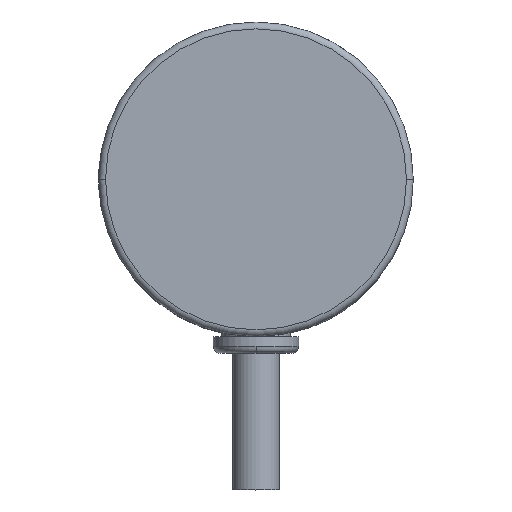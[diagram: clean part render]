
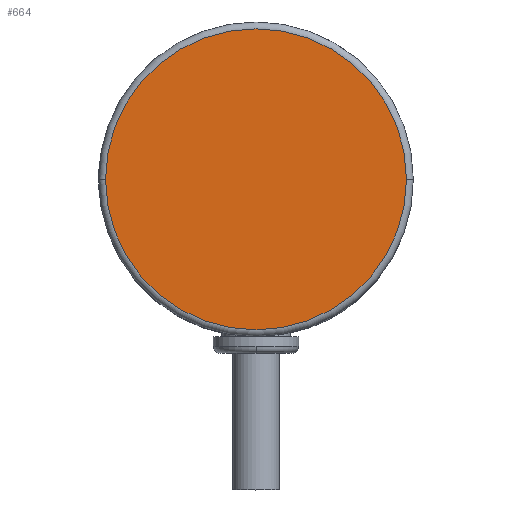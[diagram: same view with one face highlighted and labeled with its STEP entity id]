
A CAD part, top view. The second image highlights one B-rep face of the part: STEP entity #664.
In plain terms, the highlighted planar face has unit normal (0, 0, 1).
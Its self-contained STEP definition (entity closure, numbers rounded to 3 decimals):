
#664=ADVANCED_FACE('',(#964),#965,.T.);
#964=FACE_OUTER_BOUND('',#1324,.T.);
#965=PLANE('',#1325);
#1324=EDGE_LOOP('',(#2238,#2239));
#1325=AXIS2_PLACEMENT_3D('',#2240,#2241,#2242);
#2238=ORIENTED_EDGE('',*,*,#2815,.T.);
#2239=ORIENTED_EDGE('',*,*,#2847,.T.);
#2240=CARTESIAN_POINT('',(0.,0.0,60.0));
#2241=DIRECTION('',(0.0,0.0,1.0));
#2242=DIRECTION('',(1.0,0.0,0.0));
#2815=EDGE_CURVE('',#3297,#3300,#3302,.T.);
#2847=EDGE_CURVE('',#3300,#3297,#3348,.T.);
#3297=VERTEX_POINT('',#4247);
#3300=VERTEX_POINT('',#4250);
#3302=CIRCLE('',#4252,22.0);
#3348=CIRCLE('',#4528,22.0);
#4247=CARTESIAN_POINT('',(22.0,0.0,60.0));
#4250=CARTESIAN_POINT('',(-22.0,0.,60.0));
#4252=AXIS2_PLACEMENT_3D('',#5148,#5149,#5150);
#4528=AXIS2_PLACEMENT_3D('',#5183,#5184,#5185);
#5148=CARTESIAN_POINT('',(0.,0.0,60.0));
#5149=DIRECTION('',(0.0,0.0,1.0));
#5150=DIRECTION('',(1.0,0.0,0.0));
#5183=CARTESIAN_POINT('',(0.,0.0,60.0));
#5184=DIRECTION('',(0.0,0.0,1.0));
#5185=DIRECTION('',(1.0,0.0,0.0));
